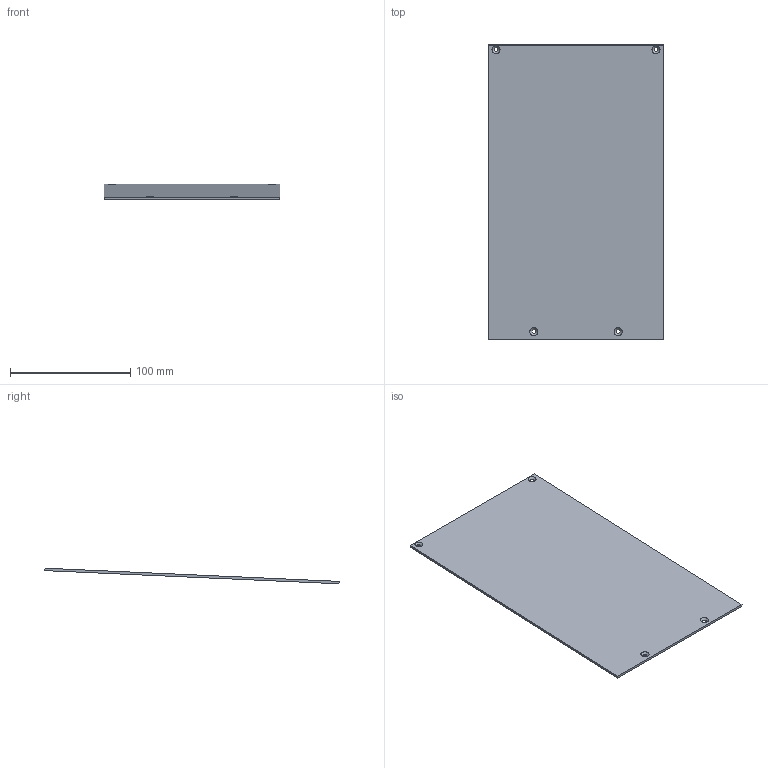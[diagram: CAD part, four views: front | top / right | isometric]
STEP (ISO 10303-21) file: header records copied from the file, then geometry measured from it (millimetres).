
FILE_DESCRIPTION(/* description */ ('STEP AP242 Edition 2','CAx-IF Rec.Pracs.---Representation and Presentation of Product Manufacturing Information (PMI)---4.0---2014-10-13','CAx-IF Rec.Pracs.---3D Tessellated Geometry---0.4---2014-09-14','2;1','CAx-IF Rec.Pracs.---User Defined Attributes---1.5---2016-08-15'),/* implementation_level */ '2;1');
FILE_NAME(/* name */ 'Assy_ForMFG - KD-B-201B_LOWERFRONTCOVER_1',/* time_stamp */ '2026-05-15T19:56:26Z',/* author */ (''),/* organization */ (''),/* preprocessor_version */ 'ST-DEVELOPER v20',/* originating_system */ 'ONSHAPE BY PTC INC, 1.215',/* authorisation */ ' ');
FILE_SCHEMA (('AP242_MANAGED_MODEL_BASED_3D_ENGINEERING_MIM_LF { 1 0 10303 442 3 1 4 }'));
Length unit declared in the file: metre
Products named in the file (1): KD-B-201B_LOWERFRONTCOVER_1
Bounding box: 146 x 244.82 x 12.97 mm (x, y, z)
Volume: 71381.5 mm3; surface area: 73081.7 mm2
Topology: 1 solids, 1 shells, 14 faces, 36 edges, 24 vertices
Faces by surface type: plane 6, cone 4, cylinder 4
Full cylindrical faces by diameter (mm): 3.4 x4
Entity records: 394 total; most frequent: DIRECTION 66, CARTESIAN_POINT 59, ORIENTED_EDGE 48, EDGE_LOOP 30, FACE_BOUND 30, AXIS2_PLACEMENT_3D 27, EDGE_CURVE 24, VERTEX_POINT 20
